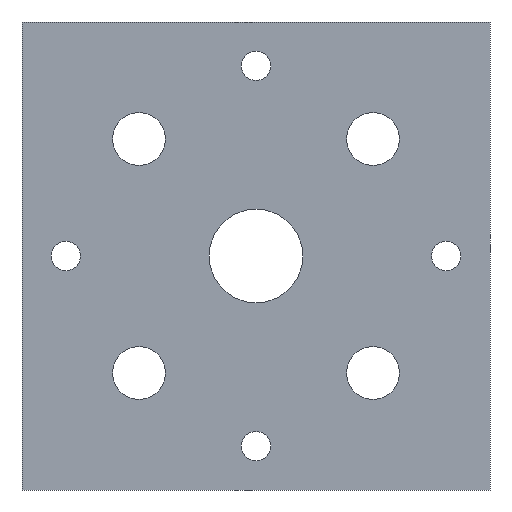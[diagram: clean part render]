
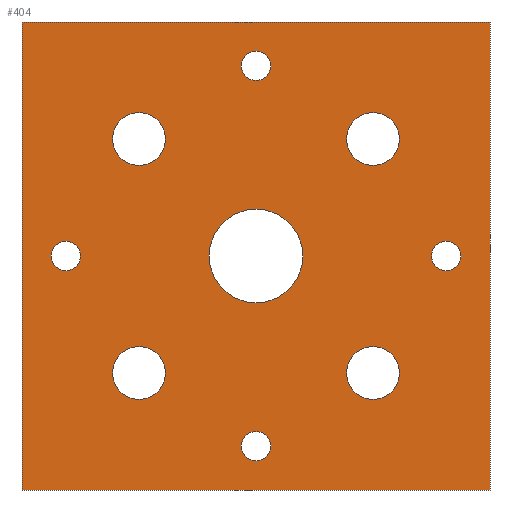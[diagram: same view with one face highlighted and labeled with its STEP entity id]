
A CAD part, front view. The second image highlights one B-rep face of the part: STEP entity #404.
In plain terms, the highlighted planar face has unit normal (0, -1, 0).
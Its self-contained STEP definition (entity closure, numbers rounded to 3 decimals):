
#15=FACE_BOUND('',#84,.T.);
#16=FACE_BOUND('',#85,.T.);
#17=FACE_BOUND('',#86,.T.);
#18=FACE_BOUND('',#87,.T.);
#19=FACE_BOUND('',#88,.T.);
#20=FACE_BOUND('',#89,.T.);
#21=FACE_BOUND('',#90,.T.);
#22=FACE_BOUND('',#91,.T.);
#23=FACE_BOUND('',#92,.T.);
#37=PLANE('',#473);
#60=FACE_OUTER_BOUND('',#83,.T.);
#83=EDGE_LOOP('',(#328,#329,#330,#331));
#84=EDGE_LOOP('',(#332));
#85=EDGE_LOOP('',(#333));
#86=EDGE_LOOP('',(#334));
#87=EDGE_LOOP('',(#335));
#88=EDGE_LOOP('',(#336));
#89=EDGE_LOOP('',(#337));
#90=EDGE_LOOP('',(#338));
#91=EDGE_LOOP('',(#339));
#92=EDGE_LOOP('',(#340));
#128=LINE('',#690,#153);
#129=LINE('',#692,#154);
#130=LINE('',#694,#155);
#131=LINE('',#695,#156);
#153=VECTOR('',#578,1000.);
#154=VECTOR('',#579,1000.);
#155=VECTOR('',#580,1000.);
#156=VECTOR('',#581,1000.);
#165=CIRCLE('',#435,2.5);
#167=CIRCLE('',#438,2.5);
#169=CIRCLE('',#441,2.5);
#171=CIRCLE('',#444,2.5);
#175=CIRCLE('',#450,4.5);
#179=CIRCLE('',#456,4.5);
#183=CIRCLE('',#462,4.5);
#187=CIRCLE('',#468,4.5);
#189=CIRCLE('',#471,8.);
#191=VERTEX_POINT('',#610);
#193=VERTEX_POINT('',#616);
#195=VERTEX_POINT('',#622);
#197=VERTEX_POINT('',#628);
#201=VERTEX_POINT('',#640);
#205=VERTEX_POINT('',#652);
#209=VERTEX_POINT('',#664);
#213=VERTEX_POINT('',#676);
#215=VERTEX_POINT('',#682);
#217=VERTEX_POINT('',#688);
#218=VERTEX_POINT('',#689);
#219=VERTEX_POINT('',#691);
#220=VERTEX_POINT('',#693);
#225=EDGE_CURVE('',#191,#191,#165,.T.);
#228=EDGE_CURVE('',#193,#193,#167,.T.);
#231=EDGE_CURVE('',#195,#195,#169,.T.);
#234=EDGE_CURVE('',#197,#197,#171,.T.);
#240=EDGE_CURVE('',#201,#201,#175,.T.);
#246=EDGE_CURVE('',#205,#205,#179,.T.);
#252=EDGE_CURVE('',#209,#209,#183,.T.);
#258=EDGE_CURVE('',#213,#213,#187,.T.);
#261=EDGE_CURVE('',#215,#215,#189,.T.);
#264=EDGE_CURVE('',#217,#218,#128,.T.);
#265=EDGE_CURVE('',#219,#217,#129,.T.);
#266=EDGE_CURVE('',#220,#219,#130,.T.);
#267=EDGE_CURVE('',#218,#220,#131,.T.);
#328=ORIENTED_EDGE('',*,*,#264,.F.);
#329=ORIENTED_EDGE('',*,*,#265,.F.);
#330=ORIENTED_EDGE('',*,*,#266,.F.);
#331=ORIENTED_EDGE('',*,*,#267,.F.);
#332=ORIENTED_EDGE('',*,*,#261,.T.);
#333=ORIENTED_EDGE('',*,*,#225,.T.);
#334=ORIENTED_EDGE('',*,*,#228,.T.);
#335=ORIENTED_EDGE('',*,*,#231,.T.);
#336=ORIENTED_EDGE('',*,*,#234,.T.);
#337=ORIENTED_EDGE('',*,*,#240,.T.);
#338=ORIENTED_EDGE('',*,*,#246,.T.);
#339=ORIENTED_EDGE('',*,*,#252,.T.);
#340=ORIENTED_EDGE('',*,*,#258,.T.);
#404=ADVANCED_FACE('',(#60,#15,#16,#17,#18,#19,#20,#21,#22,#23),#37,.T.);
#435=AXIS2_PLACEMENT_3D('',#611,#487,#488);
#438=AXIS2_PLACEMENT_3D('',#617,#494,#495);
#441=AXIS2_PLACEMENT_3D('',#623,#501,#502);
#444=AXIS2_PLACEMENT_3D('',#629,#508,#509);
#450=AXIS2_PLACEMENT_3D('',#641,#522,#523);
#456=AXIS2_PLACEMENT_3D('',#653,#536,#537);
#462=AXIS2_PLACEMENT_3D('',#665,#550,#551);
#468=AXIS2_PLACEMENT_3D('',#677,#564,#565);
#471=AXIS2_PLACEMENT_3D('',#683,#571,#572);
#473=AXIS2_PLACEMENT_3D('',#687,#576,#577);
#487=DIRECTION('center_axis',(0.,1.,0.));
#488=DIRECTION('ref_axis',(0.,0.,1.));
#494=DIRECTION('center_axis',(0.,1.,0.));
#495=DIRECTION('ref_axis',(0.,0.,1.));
#501=DIRECTION('center_axis',(0.,1.,0.));
#502=DIRECTION('ref_axis',(0.,0.,1.));
#508=DIRECTION('center_axis',(0.,1.,0.));
#509=DIRECTION('ref_axis',(0.,0.,1.));
#522=DIRECTION('center_axis',(0.,1.,0.));
#523=DIRECTION('ref_axis',(0.,0.,1.));
#536=DIRECTION('center_axis',(0.,1.,0.));
#537=DIRECTION('ref_axis',(0.,0.,1.));
#550=DIRECTION('center_axis',(0.,1.,0.));
#551=DIRECTION('ref_axis',(0.,0.,1.));
#564=DIRECTION('center_axis',(0.,1.,0.));
#565=DIRECTION('ref_axis',(0.,0.,1.));
#571=DIRECTION('center_axis',(0.,1.,0.));
#572=DIRECTION('ref_axis',(0.,0.,1.));
#576=DIRECTION('center_axis',(0.,-1.,0.));
#577=DIRECTION('ref_axis',(0.,0.,-1.));
#578=DIRECTION('',(0.,0.,1.));
#579=DIRECTION('',(-1.,0.,0.));
#580=DIRECTION('',(0.,0.,-1.));
#581=DIRECTION('',(1.,0.,0.));
#610=CARTESIAN_POINT('',(32.5,0.,-2.5));
#611=CARTESIAN_POINT('Origin',(32.5,0.,0.));
#616=CARTESIAN_POINT('',(-32.5,0.,-2.5));
#617=CARTESIAN_POINT('Origin',(-32.5,0.,0.));
#622=CARTESIAN_POINT('',(0.,0.,-35.));
#623=CARTESIAN_POINT('Origin',(0.,0.,-32.5));
#628=CARTESIAN_POINT('',(0.,0.,30.));
#629=CARTESIAN_POINT('Origin',(0.,0.,32.5));
#640=CARTESIAN_POINT('',(20.,0.,-24.5));
#641=CARTESIAN_POINT('Origin',(20.,0.,-20.));
#652=CARTESIAN_POINT('',(20.,0.,15.5));
#653=CARTESIAN_POINT('Origin',(20.,0.,20.));
#664=CARTESIAN_POINT('',(-20.,0.,15.5));
#665=CARTESIAN_POINT('Origin',(-20.,0.,20.));
#676=CARTESIAN_POINT('',(-20.,0.,-24.5));
#677=CARTESIAN_POINT('Origin',(-20.,0.,-20.));
#682=CARTESIAN_POINT('',(0.,0.,-8.));
#683=CARTESIAN_POINT('Origin',(0.,0.,0.));
#687=CARTESIAN_POINT('Origin',(-40.,0.,-40.));
#688=CARTESIAN_POINT('',(-40.,0.,-40.));
#689=CARTESIAN_POINT('',(-40.,0.,40.));
#690=CARTESIAN_POINT('',(-40.,0.,40.));
#691=CARTESIAN_POINT('',(40.,0.,-40.));
#692=CARTESIAN_POINT('',(-40.,0.,-40.));
#693=CARTESIAN_POINT('',(40.,0.,40.));
#694=CARTESIAN_POINT('',(40.,0.,40.));
#695=CARTESIAN_POINT('',(-40.,0.,40.));
